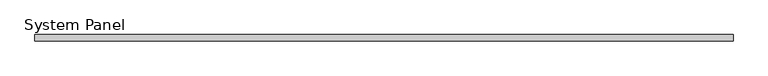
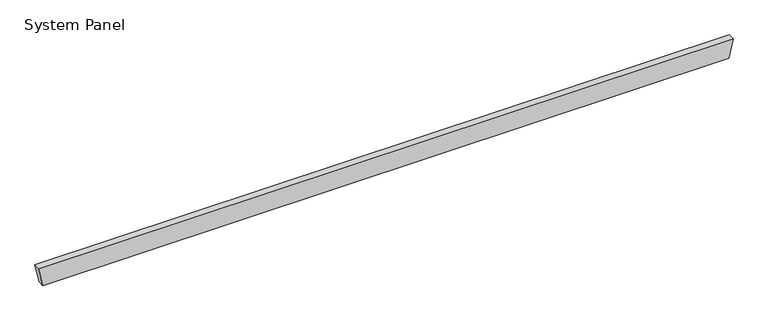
"""IFC4 building model written with IfcOpenShell, lengths in millimetres: plate geometry, System Panel : MetecnoPanel_125mm_Plain_Surfmist."""

from ifc_helpers import new_model, si_unit, frame, origin, place, context, project, spatial, polyline, outline, extrude, source, transform, mapped, element, save


def system_panel_3832784e(model_context):
    return source(origin(), model_context, "Body", "SweptSolid", [
        extrude(outline(polyline([(0.0, -6717.3970701), (0.0, 6717.3970701), (379.9704237, 6800.0), (379.9704237, -6800.0), (0.0, -6717.3970701)])), frame((0.0, -125.0, 0.0), z_axis=(0.0, 1.0, 0.0), x_axis=(0.0, 0.0, 1.0)), (0.0, 0.0, 1.0), 125.0),
    ])


if __name__ == "__main__":
    model = new_model("IFC4")
    model_context = context("Model", 3, world=origin())
    ifc_project = project(units=[si_unit("LENGTHUNIT", "METRE", prefix="MILLI")], contexts=[model_context])
    site = spatial("IfcSite", under=ifc_project)
    building = spatial("IfcBuilding", under=site)
    placement = place(None, origin())
    system_panel_shape = system_panel_3832784e(model_context)
    element("IfcPlate", 1, ObjectType="System Panel : MetecnoPanel_125mm_Plain_Surfmist", at=placement, inside=building, context=model_context, shape_type="MappedRepresentation", body=[
        mapped(system_panel_shape, transform((0.0, 0.0, 0.0), x_axis=(1.0, 0.0, 0.0), y_axis=(0.0, 1.0, 0.0), z_axis=(0.0, 0.0, 1.0))),
    ])
    save(model, "model.ifc")
